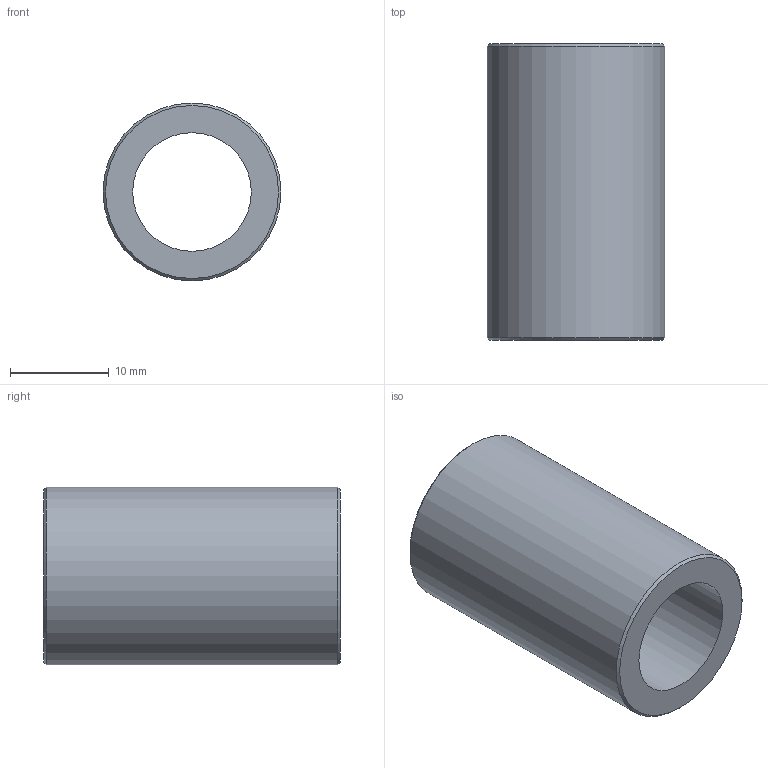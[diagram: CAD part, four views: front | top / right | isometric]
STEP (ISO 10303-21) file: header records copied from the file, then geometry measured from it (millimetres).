
FILE_DESCRIPTION(/* description */ ('','CAx-IF Rec.Pracs.---Representation and Presentation of Product Manufacturing Information (PMI)---4.0---2014-10-13'),/* implementation_level */ '2;1');
FILE_NAME(/* name */ 'Aluminium Spacer - 12mm - 30mm.step',/* time_stamp */ '2024-11-30T18:42:08+02:00',/* author */ (''),/* organization */ (''),/* preprocessor_version */ 'ST-DEVELOPER v20',/* originating_system */ 'Autodesk Translation Framework v13.20.0.188',/* authorisation */ '');
FILE_SCHEMA (('AP242_MANAGED_MODEL_BASED_3D_ENGINEERING_MIM_LF { 1 0 10303 442 1 1 4 }'));
Length unit declared in the file: millimetre
Products named in the file (1): Aluminium Spacer - 12mm - 30mm
Bounding box: 18 x 30 x 18 mm (x, y, z)
Volume: 4237.6 mm3; surface area: 3093.5 mm2
Topology: 1 solids, 1 shells, 6 faces, 10 edges, 6 vertices
Faces by surface type: cone 2, cylinder 2, plane 2
Full cylindrical faces by diameter (mm): 12 x1, 18 x1
Entity records: 181 total; most frequent: DIRECTION 30, CARTESIAN_POINT 23, ORIENTED_EDGE 20, AXIS2_PLACEMENT_3D 13, EDGE_CURVE 10, EDGE_LOOP 8, FACE_OUTER_BOUND 6, CIRCLE 6
